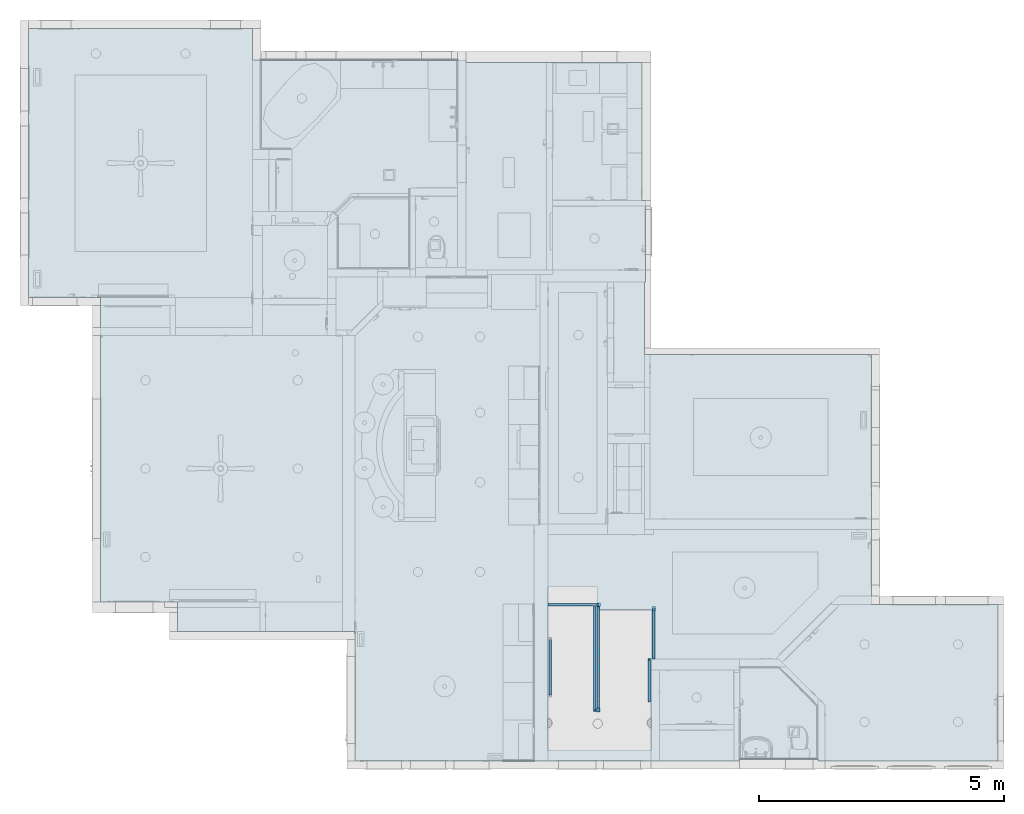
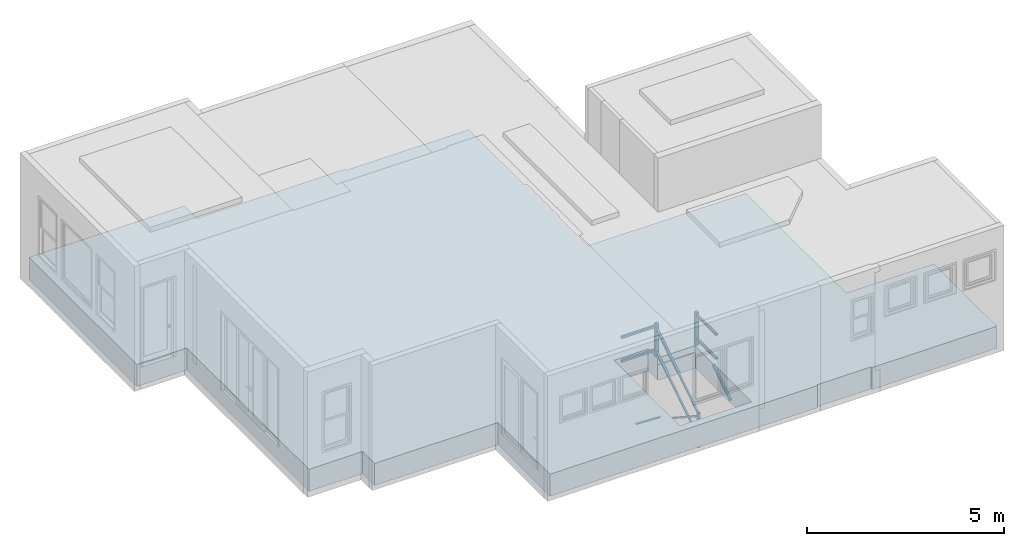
# One storey, part 6 of 103: 12 building element parts, 1 slab, 6 elements without a shape of their own.
"""IFC2X3 building model written with IfcOpenShell, lengths in inches."""

from ifc_helpers import new_model, entity, si_unit, converted_unit, derived_unit, money_unit, direction, frame, origin_with_axes, place, context, subcontext, project, spatial, faceted_brep, material, type_object, element, aggregate, save


model = new_model("IFC2X3")

# Units and contexts
model_context = context("Model", 3, precision=0.00039370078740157, world=origin_with_axes(), true_north=direction((0.0, 1.0)))
plan_context = context("Plan", 3, precision=0.00039370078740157, world=origin_with_axes(), true_north=direction((0.0, 1.0)))
body_context = subcontext(model_context, "Body", "Model", "MODEL_VIEW")
ifc_project = project(units=[converted_unit("LENGTHUNIT", "INCH", entity("IfcPositiveLengthMeasure", 0.0254), si_unit("LENGTHUNIT", "METRE"), dimensions=[1, 0, 0, 0, 0, 0, 0]), converted_unit("AREAUNIT", "SQUARE_FOOT", entity("IfcPositiveLengthMeasure", 0.09290304), si_unit("AREAUNIT", "SQUARE_METRE"), dimensions=[2, 0, 0, 0, 0, 0, 0]), si_unit("PLANEANGLEUNIT", "RADIAN"), si_unit("SOLIDANGLEUNIT", "STERADIAN"), money_unit("USD"), converted_unit("TIMEUNIT", "Year", entity("IfcTimeMeasure", 31557600.0), si_unit("TIMEUNIT", "SECOND"), dimensions=[0, 0, 1, 0, 0, 0, 0]), si_unit("MASSUNIT", "GRAM", prefix="KILO"), si_unit("THERMODYNAMICTEMPERATUREUNIT", "DEGREE_CELSIUS"), si_unit("LUMINOUSINTENSITYUNIT", "LUMEN"), si_unit("ENERGYUNIT", "JOULE", prefix="MEGA"), derived_unit("SPECIFICHEATCAPACITYUNIT", [(si_unit("ENERGYUNIT", "JOULE"), 1), (si_unit("MASSUNIT", "GRAM", prefix="KILO"), -1), (si_unit("THERMODYNAMICTEMPERATUREUNIT", "KELVIN"), -1)])], contexts=[model_context, plan_context])

# Site, building, storey
site_placement = place(None, origin_with_axes())
site = spatial("IfcSite", under=ifc_project, at=site_placement, Name="Site", CompositionType="ELEMENT")
building_placement = place(site_placement, origin_with_axes())
building = spatial("IfcBuilding", under=site, at=building_placement, Name="Building", CompositionType="ELEMENT")
storey_placement = place(building_placement, frame((0.0, 0.0, 127.9999999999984), z_axis=(0.0, 0.0, 1.0), x_axis=(1.0, 0.0, 0.0)))
storey = spatial("IfcBuildingStorey", under=building, at=storey_placement, Name="Second Floor", CompositionType="ELEMENT", Elevation=128.0)

# Slab
ifc_material_1 = material(Name="Generic - Structural")
slab_type = type_object("IfcSlabType", Name="Generic - Structural 27\"", PredefinedType="FLOOR")
slab_placement = place(storey_placement, frame((-255.7499999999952, 595.0000003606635, 0.0), z_axis=(0.0, 0.0, 1.0), x_axis=(1.0, 0.0, 0.0)))
element("IfcSlab", 1, at=slab_placement, inside=storey, type_object=slab_type, material=ifc_material_1, Name="S-03", PredefinedType="FLOOR", context=body_context, shape_type="Brep", body=[
    faceted_brep([(351.2500061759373, -27.00000406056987, 0.0), (351.2500061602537, -25.00000036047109, 0.0), (179.9999999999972, -25.00000036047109, 0.0), (179.9999961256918, 0.0, 0.0), (0.0, 0.0, 0.0), (0.0, -215.9999976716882, 0.0), (57.75007379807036, -215.999986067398, 0.0), (57.74956785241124, -460.5000114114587, 0.0), (119.7499984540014, -460.5000047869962, 0.0), (119.7499984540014, -484.5000096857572, 0.0), (262.2499999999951, -484.5000003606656, 0.0), (262.2499999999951, -588.5000002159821, 0.0), (571.2499941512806, -588.5000270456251, 0.0), (571.2499941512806, -586.9999984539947, 0.0), (634.2500113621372, -586.9999984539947, 0.0), (634.2500113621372, -588.5000038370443, 0.0), (778.749999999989, -588.5000038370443, 0.0), (778.749999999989, -462.749995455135, 0.0), (677.249999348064, -462.749995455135, 0.0), (677.249999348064, -261.9999964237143, 0.0), (494.7499981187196, -261.9999964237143, 0.0), (494.7499981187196, -203.4990902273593, 0.0), (495.7499978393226, -203.4990902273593, 0.0), (495.7499978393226, -138.000007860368, 0.0), (492.7499986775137, -138.000007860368, 0.0), (492.7499986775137, -27.00000406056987, 0.0), (456.7499999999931, -467.5000028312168, 0.0), (456.7499999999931, -466.8750003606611, 0.0), (500.2499999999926, -466.8750003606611, 0.0), (500.2499999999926, -467.5000028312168, 0.0), (500.250002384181, -579.9999772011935, 0.0), (417.2499907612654, -579.9999772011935, 0.0), (417.2499907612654, -448.5000081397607, 0.0), (456.6854540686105, -448.5000004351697, 0.0), (456.7466030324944, -448.5000004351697, 0.0), (456.7466030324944, -466.5000004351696, 0.0), (351.2500061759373, -27.00000406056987, -26.99999999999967), (351.2500061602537, -25.00000036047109, -26.99999999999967), (179.9999999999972, -25.00000036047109, -26.99999999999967), (179.9999961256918, 0.0, -26.99999999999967), (0.0, 0.0, -26.99999999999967), (0.0, -215.9999976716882, -26.99999999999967), (57.75007379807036, -215.999986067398, -26.99999999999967), (57.74956785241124, -460.5000114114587, -26.99999999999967), (119.7499984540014, -460.5000047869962, -26.99999999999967), (119.7499984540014, -484.5000096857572, -26.99999999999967), (262.2499999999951, -484.5000003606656, -26.99999999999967), (262.2499999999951, -588.5000002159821, -26.99999999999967), (571.2499941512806, -588.5000270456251, -26.99999999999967), (571.2499941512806, -586.9999984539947, -26.99999999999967), (634.2500113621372, -586.9999984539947, -26.99999999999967), (634.2500113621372, -588.5000038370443, -26.99999999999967), (778.749999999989, -588.5000038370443, -26.99999999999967), (778.749999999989, -462.749995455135, -26.99999999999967), (677.249999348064, -462.749995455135, -26.99999999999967), (677.249999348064, -261.9999964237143, -26.99999999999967), (494.7499981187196, -261.9999964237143, -26.99999999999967), (494.7499981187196, -203.4990902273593, -26.99999999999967), (495.7499978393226, -203.4990902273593, -26.99999999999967), (495.7499978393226, -138.000007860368, -26.99999999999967), (492.7499986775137, -138.000007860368, -26.99999999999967), (492.7499986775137, -27.00000406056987, -26.99999999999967), (456.7499999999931, -467.5000003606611, -7.999999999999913), (456.7499999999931, -467.0000003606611, -7.999999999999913), (456.7499999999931, -466.8750003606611, -7.999999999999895), (500.2499999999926, -466.8750003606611, -7.999999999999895), (500.2499999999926, -467.0000003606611, -7.999999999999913), (500.2499999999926, -467.5000003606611, -7.999999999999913), (500.250002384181, -467.5000028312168, -26.99999999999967), (500.250002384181, -579.9999772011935, -26.99999999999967), (417.2499907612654, -579.9999772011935, -26.99999999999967), (417.2499907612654, -448.5000081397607, -26.99999999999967), (456.6854540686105, -448.5000004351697, -26.99999999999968), (456.7466030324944, -448.5000004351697, -26.99999999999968), (456.7466030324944, -466.5000004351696, -13.49999999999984), (456.7499971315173, -467.5000028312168, -26.99999999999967)], [[[0, 1, 2, 3, 4, 5, 6, 7, 8, 9, 10, 11, 12, 13, 14, 15, 16, 17, 18, 19, 20, 21, 22, 23, 24, 25], [26, 27, 28, 29, 30, 31, 32, 33, 34, 35]], [[36, 37, 1, 0]], [[37, 38, 2, 1]], [[38, 39, 3, 2]], [[39, 40, 4, 3]], [[40, 41, 5, 4]], [[41, 42, 6, 5]], [[42, 43, 7, 6]], [[43, 44, 8, 7]], [[44, 45, 9, 8]], [[45, 46, 10, 9]], [[46, 47, 11, 10]], [[47, 48, 12, 11]], [[48, 49, 13, 12]], [[49, 50, 14, 13]], [[50, 51, 15, 14]], [[51, 52, 16, 15]], [[52, 53, 17, 16]], [[53, 54, 18, 17]], [[54, 55, 19, 18]], [[55, 56, 20, 19]], [[56, 57, 21, 20]], [[57, 58, 22, 21]], [[58, 59, 23, 22]], [[59, 60, 24, 23]], [[60, 61, 25, 24]], [[61, 36, 0, 25]], [[27, 26, 62, 63, 64]], [[28, 27, 64, 65]], [[29, 28, 65, 66, 67]], [[29, 67, 68, 69, 30]], [[69, 70, 31, 30]], [[70, 71, 32, 31]], [[33, 32, 71, 72]], [[33, 72, 73, 34]], [[34, 73, 74, 35]], [[62, 26, 35, 74, 72, 75]], [[44, 43, 42, 41, 40, 39, 38, 37, 36, 61, 60, 59, 58, 57, 56, 55, 54, 53, 52, 51, 50, 49, 48, 47, 46, 45], [68, 75, 72, 71, 70, 69]], [[62, 67, 66, 63]], [[65, 64, 63, 66]], [[67, 62, 75, 68]], [[72, 74, 73]]]),
])

# Proxy, building element part
building_element_proxy_type = type_object("IfcBuildingElementProxyType", Name="Railing Type", PredefinedType="NOTDEFINED")
proxy_1_placement = place(storey_placement, frame((161.4999999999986, 59.4943774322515, -92.1176470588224), z_axis=(0.0, 0.0, 1.0), x_axis=(-1.0, 0.0, 0.0)))
proxy_1 = element("IfcBuildingElementProxy", 2, at=proxy_1_placement, inside=storey, type_object=building_element_proxy_type, Name="RAILING - 001")
ifc_material_2 = material(Name="Wood - Trim")
building_element_part_1_placement = place(proxy_1_placement, origin_with_axes())
building_element_part_1 = element("IfcBuildingElementPart", 3, at=building_element_part_1_placement, material=ifc_material_2, Name="Wood - Trim", context=body_context, shape_type="Brep", body=[
    faceted_brep([(-2.968503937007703, 0.0, 75.88235294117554), (-2.968503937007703, 1.229639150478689, 74.30501735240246), (-2.968503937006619, -44.79891506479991, 38.42266441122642), (-2.968503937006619, -46.02855421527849, 39.99999999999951), (-0.968503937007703, 0.0, 75.88235294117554), (-0.968503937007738, 1.229639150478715, 74.30501735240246), (-0.968503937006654, -44.79891506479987, 38.42266441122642), (-0.9685039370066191, -46.02855421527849, 39.99999999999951)], [[[0, 1, 2, 3]], [[0, 4, 5, 1]], [[1, 5, 6, 2]], [[3, 2, 6, 7]], [[4, 0, 3, 7]], [[5, 4, 7, 6]]]),
])
aggregate(proxy_1, [building_element_part_1])

# Proxy, building element parts
proxy_2_placement = place(storey_placement, frame((161.4999999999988, 129.9999999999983, 0.0), z_axis=(0.0, 0.0, 1.0), x_axis=(1.0, 0.0, 0.0)))
proxy_2 = element("IfcBuildingElementProxy", 4, at=proxy_2_placement, inside=storey, type_object=building_element_proxy_type, Name="RA-07")
building_element_part_2_placement = place(proxy_2_placement, origin_with_axes())
building_element_part_2 = element("IfcBuildingElementPart", 5, at=building_element_part_2_placement, material=ifc_material_2, Name="Wood - Trim", context=body_context, shape_type="Brep", body=[
    faceted_brep([(42.24999999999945, 0.5, 0.0), (42.24999999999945, 3.499999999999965, 0.0), (42.24999999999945, 3.499999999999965, 39.99999999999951), (42.24999999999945, 0.5, 39.99999999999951), (39.24999999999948, 0.5, 0.0), (39.24999999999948, 3.499999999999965, 0.0), (39.24999999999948, 3.499999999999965, 39.99999999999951), (39.24999999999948, 0.5, 39.99999999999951)], [[[0, 1, 2, 3]], [[0, 4, 5, 1]], [[1, 5, 6, 2]], [[3, 2, 6, 7]], [[4, 0, 3, 7]], [[5, 4, 7, 6]]]),
])
building_element_part_3_placement = place(proxy_2_placement, origin_with_axes())
building_element_part_3 = element("IfcBuildingElementPart", 6, at=building_element_part_3_placement, material=ifc_material_2, Name="Wood - Trim", context=body_context, shape_type="Brep", body=[
    faceted_brep([(0.0, 1.0, 37.99999999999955), (0.0, 1.0, 35.99999999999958), (40.74999999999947, 1.0, 35.99999999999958), (40.74999999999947, 1.0, 37.99999999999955), (0.0, 2.999999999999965, 37.99999999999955), (0.0, 2.999999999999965, 35.99999999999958), (40.74999999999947, 2.999999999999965, 35.99999999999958), (40.74999999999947, 2.999999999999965, 37.99999999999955)], [[[0, 1, 2, 3]], [[0, 4, 5, 1]], [[1, 5, 6, 2]], [[3, 2, 6, 7]], [[4, 0, 3, 7]], [[5, 4, 7, 6]]]),
])
building_element_part_4_placement = place(proxy_2_placement, origin_with_axes())
building_element_part_4 = element("IfcBuildingElementPart", 7, at=building_element_part_4_placement, material=ifc_material_2, Name="Wood - Trim", context=body_context, shape_type="Brep", body=[
    faceted_brep([(0.0, 1.0, 8.999999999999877), (0.0, 1.0, 6.999999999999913), (40.74999999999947, 1.0, 6.999999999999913), (40.74999999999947, 1.0, 8.999999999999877), (0.0, 2.999999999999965, 8.999999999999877), (0.0, 2.999999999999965, 6.999999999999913), (40.74999999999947, 2.999999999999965, 6.999999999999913), (40.74999999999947, 2.999999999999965, 8.999999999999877)], [[[0, 1, 2, 3]], [[0, 4, 5, 1]], [[1, 5, 6, 2]], [[3, 2, 6, 7]], [[4, 0, 3, 7]], [[5, 4, 7, 6]]]),
])
aggregate(proxy_2, [building_element_part_2, building_element_part_3, building_element_part_4])

proxy_3_placement = place(storey_placement, frame((199.9703548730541, 131.4643714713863, -55.99999999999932), z_axis=(0.0, 0.0, 1.0), x_axis=(0.0, -1.0, 0.0)))
proxy_3 = element("IfcBuildingElementProxy", 8, at=proxy_3_placement, inside=storey, type_object=building_element_proxy_type, Name="RA-07")
building_element_part_5_placement = place(proxy_3_placement, origin_with_axes())
building_element_part_5 = element("IfcBuildingElementPart", 9, at=building_element_part_5_placement, material=ifc_material_2, Name="Wood - Trim", context=body_context, shape_type="Brep", body=[
    faceted_brep([(85.4643712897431, 0.4999999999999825, -3.999999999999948), (85.4643712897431, 3.499999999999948, -3.999999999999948), (85.4643712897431, 3.499999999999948, 37.99999999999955), (85.4643712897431, 0.4999999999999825, 37.99999999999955), (82.46437128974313, 0.4999999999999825, -3.999999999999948), (82.46437128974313, 3.499999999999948, -3.999999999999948), (82.46437128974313, 3.499999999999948, 37.99999999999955), (82.46437128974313, 0.4999999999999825, 37.99999999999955)], [[[0, 1, 2, 3]], [[0, 4, 5, 1]], [[1, 5, 6, 2]], [[3, 2, 6, 7]], [[4, 0, 3, 7]], [[5, 4, 7, 6]]]),
])
building_element_part_6_placement = place(proxy_3_placement, origin_with_axes())
building_element_part_6 = element("IfcBuildingElementPart", 10, at=building_element_part_6_placement, material=ifc_material_2, Name="Wood - Trim", context=body_context, shape_type="Brep", body=[
    faceted_brep([(0.9643714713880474, 2.999999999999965, 59.99152065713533), (0.9643714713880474, 2.999999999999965, 62.28153216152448), (1.003113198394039, 2.999999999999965, 62.34199875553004), (84.50385075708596, 2.999999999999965, 8.841998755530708), (83.42489182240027, 2.999999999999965, 7.158001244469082), (0.9643714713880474, 0.999999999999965, 62.28153216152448), (0.9643714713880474, 0.999999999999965, 59.99152065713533), (1.003113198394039, 0.999999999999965, 62.34199875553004), (84.50385075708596, 0.999999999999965, 8.841998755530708), (83.42489182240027, 0.999999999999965, 7.158001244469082)], [[[0, 1, 2, 3, 4]], [[5, 1, 0, 6]], [[1, 5, 7, 2]], [[3, 2, 7, 8]], [[3, 8, 9, 4]], [[6, 0, 4, 9]], [[5, 6, 9, 8, 7]]]),
])
building_element_part_7_placement = place(proxy_3_placement, origin_with_axes())
building_element_part_7 = element("IfcBuildingElementPart", 11, at=building_element_part_7_placement, material=ifc_material_2, Name="Wood - Trim", context=body_context, shape_type="Brep", body=[
    faceted_brep([(0.9643714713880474, 2.999999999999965, 88.8038704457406), (0.9643714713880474, 2.999999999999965, 91.17917086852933), (83.96437128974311, 2.999999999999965, 37.99999999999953), (82.88541235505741, 2.999999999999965, 36.31600248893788), (0.9643714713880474, 0.999999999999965, 91.17917086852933), (0.9643714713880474, 0.999999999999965, 88.8038704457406), (83.96437128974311, 0.999999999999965, 37.99999999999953), (82.88541235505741, 0.999999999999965, 36.31600248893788)], [[[0, 1, 2, 3]], [[4, 1, 0, 5]], [[1, 4, 6, 2]], [[2, 6, 7, 3]], [[5, 0, 3, 7]], [[4, 5, 7, 6]]]),
])
aggregate(proxy_3, [building_element_part_5, building_element_part_6, building_element_part_7])

# Proxy, building element part
proxy_4_placement = place(storey_placement, frame((199.2671335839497, 59.28177900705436, -115.3908628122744), z_axis=(0.0, 0.0, 1.0), x_axis=(1.0, 0.0, 0.0)))
proxy_4 = element("IfcBuildingElementProxy", 12, at=proxy_4_placement, inside=storey, type_object=building_element_proxy_type, Name="RAILING - 001")
building_element_part_8_placement = place(proxy_4_placement, origin_with_axes())
building_element_part_8 = element("IfcBuildingElementPart", 13, at=building_element_part_8_placement, material=ifc_material_2, Name="Wood - Trim", context=body_context, shape_type="Brep", body=[
    faceted_brep([(0.720838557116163, -11.78177882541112, 95.39086281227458), (0.720838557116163, -12.87823009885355, 93.71820187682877), (0.720838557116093, 71.62176971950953, 38.32733906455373), (0.720838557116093, 72.71822099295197, 39.99999999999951), (-1.279161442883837, -11.78177882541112, 95.39086281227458), (-1.279161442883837, -12.87823009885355, 93.71820187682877), (-1.279161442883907, 71.62176971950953, 38.32733906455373), (-1.279161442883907, 72.71822099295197, 39.99999999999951)], [[[0, 1, 2, 3]], [[0, 4, 5, 1]], [[1, 5, 6, 2]], [[3, 2, 6, 7]], [[4, 0, 3, 7]], [[5, 4, 7, 6]]]),
])
aggregate(proxy_4, [building_element_part_8])

# Proxy, building element parts
proxy_5_placement = place(storey_placement, frame((244.4999999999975, 88.49999999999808, 0.0), z_axis=(0.0, 0.0, 1.0), x_axis=(-1.0, 0.0, 0.0)))
proxy_5 = element("IfcBuildingElementProxy", 14, at=proxy_5_placement, inside=storey, type_object=building_element_proxy_type, Name="RA-07")
building_element_part_9_placement = place(proxy_5_placement, origin_with_axes())
building_element_part_9 = element("IfcBuildingElementPart", 15, at=building_element_part_9_placement, material=ifc_material_2, Name="Wood - Trim", context=body_context, shape_type="Brep", body=[
    faceted_brep([(-0.4999999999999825, -41.9999999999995, 0.0), (-0.4999999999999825, -41.9999999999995, 39.99999999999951), (-3.499999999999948, -41.9999999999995, 39.99999999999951), (-3.499999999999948, -41.9999999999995, 0.0), (-0.4999999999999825, -38.99999999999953, 0.0), (-0.4999999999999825, -38.99999999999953, 39.99999999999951), (-3.499999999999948, -38.99999999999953, 39.99999999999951), (-3.499999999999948, -38.99999999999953, 0.0)], [[[0, 1, 2, 3]], [[4, 5, 1, 0]], [[1, 5, 6, 2]], [[3, 2, 6, 7]], [[0, 3, 7, 4]], [[7, 6, 5, 4]]]),
])
building_element_part_10_placement = place(proxy_5_placement, origin_with_axes())
building_element_part_10 = element("IfcBuildingElementPart", 16, at=building_element_part_10_placement, material=ifc_material_2, Name="Wood - Trim", context=body_context, shape_type="Brep", body=[
    faceted_brep([(-2.999999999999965, 0.0, 37.99999999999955), (-2.999999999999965, 0.0, 35.99999999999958), (-2.999999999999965, -40.49999999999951, 35.99999999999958), (-2.999999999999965, -40.49999999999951, 37.99999999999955), (-0.999999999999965, 0.0, 37.99999999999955), (-0.999999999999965, 0.0, 35.99999999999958), (-0.999999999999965, -40.49999999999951, 35.99999999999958), (-0.999999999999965, -40.49999999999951, 37.99999999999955)], [[[0, 1, 2, 3]], [[0, 4, 5, 1]], [[1, 5, 6, 2]], [[3, 2, 6, 7]], [[4, 0, 3, 7]], [[5, 4, 7, 6]]]),
])
building_element_part_11_placement = place(proxy_5_placement, origin_with_axes())
building_element_part_11 = element("IfcBuildingElementPart", 17, at=building_element_part_11_placement, material=ifc_material_2, Name="Wood - Trim", context=body_context, shape_type="Brep", body=[
    faceted_brep([(-2.999999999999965, 0.0, 8.999999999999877), (-2.999999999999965, 0.0, 6.999999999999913), (-2.999999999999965, -40.49999999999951, 6.999999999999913), (-2.999999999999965, -40.49999999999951, 8.999999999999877), (-0.999999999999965, 0.0, 8.999999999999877), (-0.999999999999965, 0.0, 6.999999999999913), (-0.999999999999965, -40.49999999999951, 6.999999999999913), (-0.999999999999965, -40.49999999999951, 8.999999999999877)], [[[0, 1, 2, 3]], [[0, 4, 5, 1]], [[1, 5, 6, 2]], [[3, 2, 6, 7]], [[4, 0, 3, 7]], [[5, 4, 7, 6]]]),
])
aggregate(proxy_5, [building_element_part_9, building_element_part_10, building_element_part_11])

# Proxy, building element part
proxy_6_placement = place(storey_placement, frame((242.9402387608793, 18.50002418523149, -56.23529411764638), z_axis=(0.0, 0.0, 1.0), x_axis=(1.0, 0.0, 0.0)))
proxy_6 = element("IfcBuildingElementProxy", 18, at=proxy_6_placement, inside=storey, type_object=building_element_proxy_type, Name="RA-03")
building_element_part_12_placement = place(proxy_6_placement, origin_with_axes())
building_element_part_12 = element("IfcBuildingElementPart", 19, at=building_element_part_12_placement, material=ifc_material_2, Name="Wood - Trim", context=body_context, shape_type="Brep", body=[
    faceted_brep([(1.0, 35.26021126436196, 35.99999999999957), (1.0, 36.36684501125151, 34.3340582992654), (1.0, 70.21039748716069, 56.81528754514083), (1.0, 69.10376374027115, 58.48122924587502), (-1.0, 35.26021126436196, 35.99999999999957), (-1.0, 36.36684501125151, 34.3340582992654), (-1.0, 70.21039748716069, 56.81528754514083), (-1.0, 69.10376374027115, 58.48122924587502)], [[[0, 1, 2, 3]], [[0, 4, 5, 1]], [[1, 5, 6, 2]], [[3, 2, 6, 7]], [[4, 0, 3, 7]], [[5, 4, 7, 6]]]),
])
aggregate(proxy_6, [building_element_part_12])

save(model, "model.ifc")
